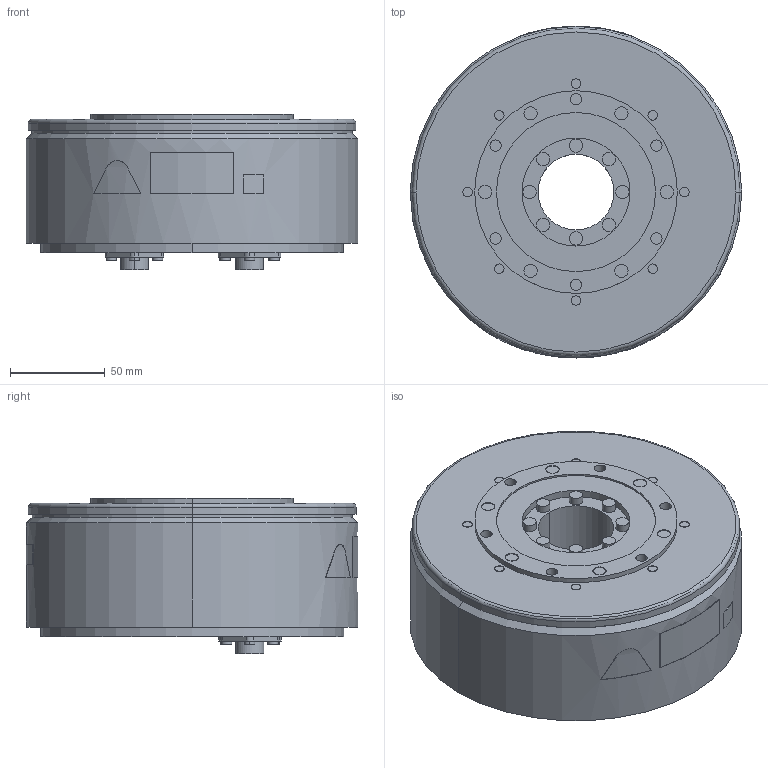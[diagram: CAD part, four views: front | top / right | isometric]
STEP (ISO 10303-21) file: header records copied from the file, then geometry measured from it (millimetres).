
FILE_DESCRIPTION (( 'STEP AP203' ), '1' );
FILE_NAME ('sgm7f_08c_a1_.STEP', '2016-07-24T06:26:50', ( '匠エンジニアリング山之内' ), ( 'TAKUMI-Engniaring' ), 'SwSTEP 2.0', 'SolidWorks 2006303', '' );
FILE_SCHEMA (( 'CONFIG_CONTROL_DESIGN' ));
Length unit declared in the file: millimetre
Products named in the file (1): sgm7f_08c_a1_
Bounding box: 175 x 175.2 x 82.1 mm (x, y, z)
Volume: 1573907.3 mm3; surface area: 126488.7 mm2
Topology: 1 solids, 1 shells, 326 faces, 709 edges, 470 vertices
Faces by surface type: cylinder 182, plane 138, cone 4, torus 2
Entity records: 9208 total; most frequent: DIRECTION 1743, CARTESIAN_POINT 1574, ORIENTED_EDGE 1418, AXIS2_PLACEMENT_3D 713, EDGE_CURVE 709, VERTEX_POINT 470, EDGE_LOOP 413, CIRCLE 386
